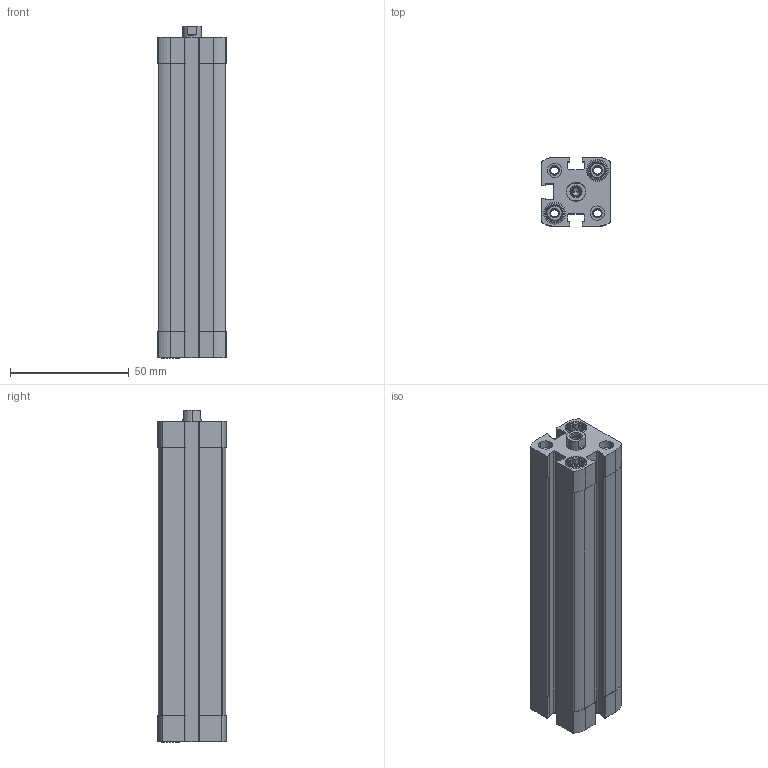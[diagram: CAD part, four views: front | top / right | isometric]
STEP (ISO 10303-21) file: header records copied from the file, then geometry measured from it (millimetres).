
FILE_DESCRIPTION (( 'STEP AP203' ), '1' );
FILE_NAME ('CCN16-100F.STEP', '2017-03-28T13:48:48', ( '' ), ( '' ), 'SwSTEP 2.0', 'SolidWorks 2016', '' );
FILE_SCHEMA (( 'CONFIG_CONTROL_DESIGN' ));
Length unit declared in the file: millimetre
Products named in the file (3): CCN-100---(Z); CCN-100_(KS); CCN16-100F
Assembly tree (2 placements, depth 2):
  CCN16-100F
    CCN-100---(Z)
    CCN-100_(KS)
Bounding box: 29 x 29 x 139.7 mm (x, y, z)
Volume: 73500 mm3; surface area: 38902.6 mm2
Topology: 2 solids, 2 shells, 363 faces, 940 edges, 615 vertices
Faces by surface type: plane 187, cylinder 134, cone 42
Entity records: 11521 total; most frequent: CARTESIAN_POINT 2215, DIRECTION 1896, ORIENTED_EDGE 1876, EDGE_CURVE 938, AXIS2_PLACEMENT_3D 688, VERTEX_POINT 615, LINE 520, VECTOR 520
